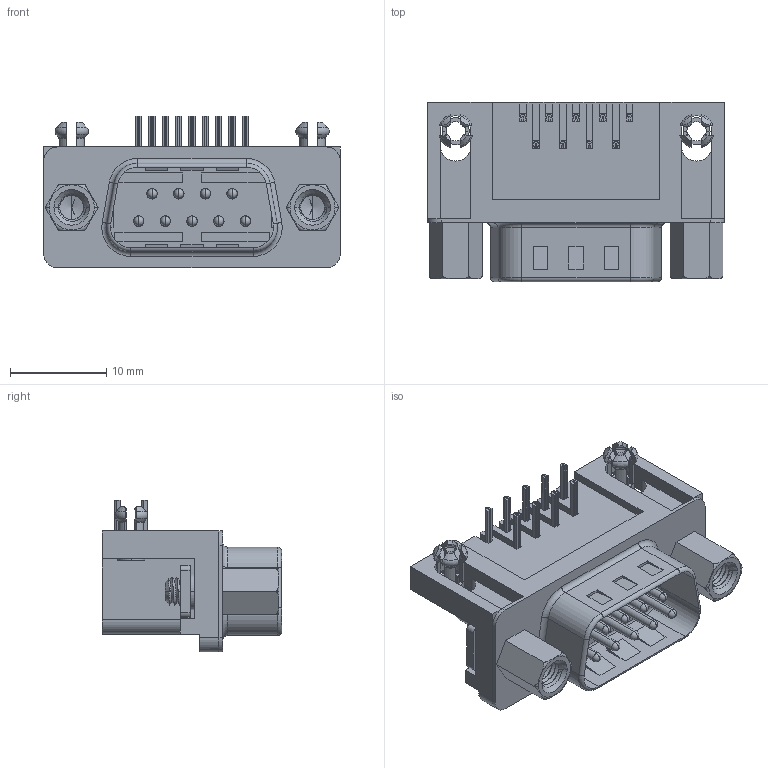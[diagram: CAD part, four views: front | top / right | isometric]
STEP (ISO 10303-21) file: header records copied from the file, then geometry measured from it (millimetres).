
FILE_DESCRIPTION((''),'2;1');
FILE_NAME('107-0914724I101-A1_ASM','2019-08-16T',('cq'),(''),'PRO/ENGINEER BY PARAMETRIC TECHNOLOGY CORPORATION, 2009280','PRO/ENGINEER BY PARAMETRIC TECHNOLOGY CORPORATION, 2009280','');
FILE_SCHEMA(('CONFIG_CONTROL_DESIGN'));
Products named in the file (1): 107-0914724I101-A1_ASM
Bounding box: 30.81 x 18.6 x 15.75 mm (x, y, z)
Volume: 3021.5 mm3; surface area: 5460.8 mm2
Topology: 3 solids, 25 shells, 1182 faces, 3060 edges, 1872 vertices
Faces by surface type: plane 537, cylinder 329, bspline 146, cone 88, torus 56, sphere 26
Entity records: 51301 total; most frequent: CARTESIAN_POINT 23648, ORIENTED_EDGE 5924, DIRECTION 5324, EDGE_CURVE 3026, VERTEX_POINT 1872, AXIS2_PLACEMENT_3D 1792, VECTOR 1740, LINE 1740
